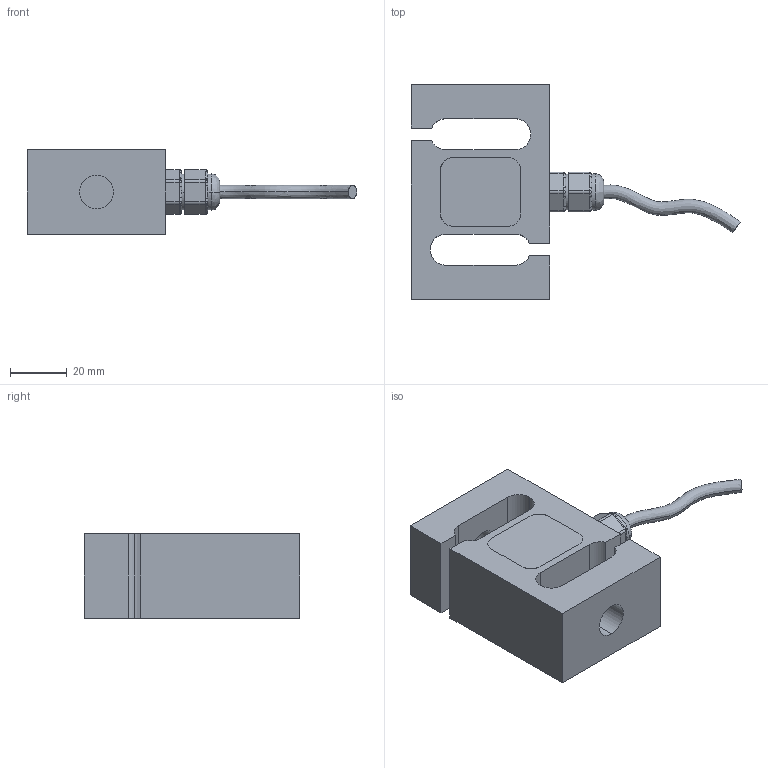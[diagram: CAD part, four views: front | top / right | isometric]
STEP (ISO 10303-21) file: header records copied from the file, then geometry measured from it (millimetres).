
FILE_DESCRIPTION (( 'STEP AP203' ), '1' );
FILE_NAME ('HI STLB-220LB-2.2KLB.STEP', '2014-10-14T16:55:21', ( '' ), ( '' ), 'SwSTEP 2.0', 'SolidWorks 2013', '' );
FILE_SCHEMA (( 'CONFIG_CONTROL_DESIGN' ));
Length unit declared in the file: millimetre
Products named in the file (4): Load Element; Cable and Adapter; HI STLB-220LB-2.2KLB; Element Core
Assembly tree (3 placements, depth 2):
  HI STLB-220LB-2.2KLB
    Element Core
    Load Element
    Cable and Adapter
Bounding box: 116.53 x 76.2 x 30 mm (x, y, z)
Volume: 89294.1 mm3; surface area: 27015.7 mm2
Topology: 3 solids, 3 shells, 143 faces, 351 edges, 208 vertices
Faces by surface type: cylinder 61, plane 54, bspline 16, sphere 12
Entity records: 5375 total; most frequent: CARTESIAN_POINT 1624, DIRECTION 737, ORIENTED_EDGE 686, EDGE_CURVE 343, AXIS2_PLACEMENT_3D 281, VERTEX_POINT 208, LINE 175, VECTOR 175
